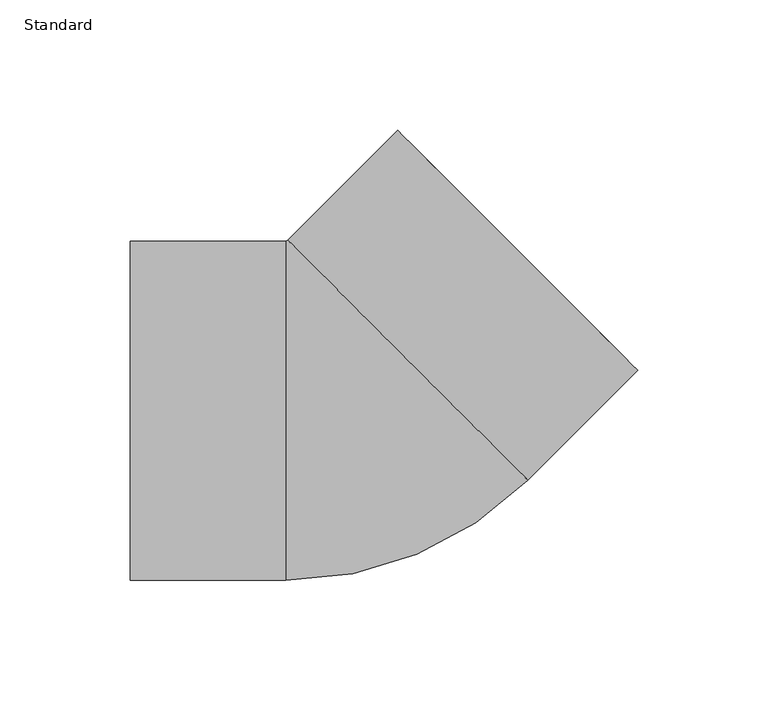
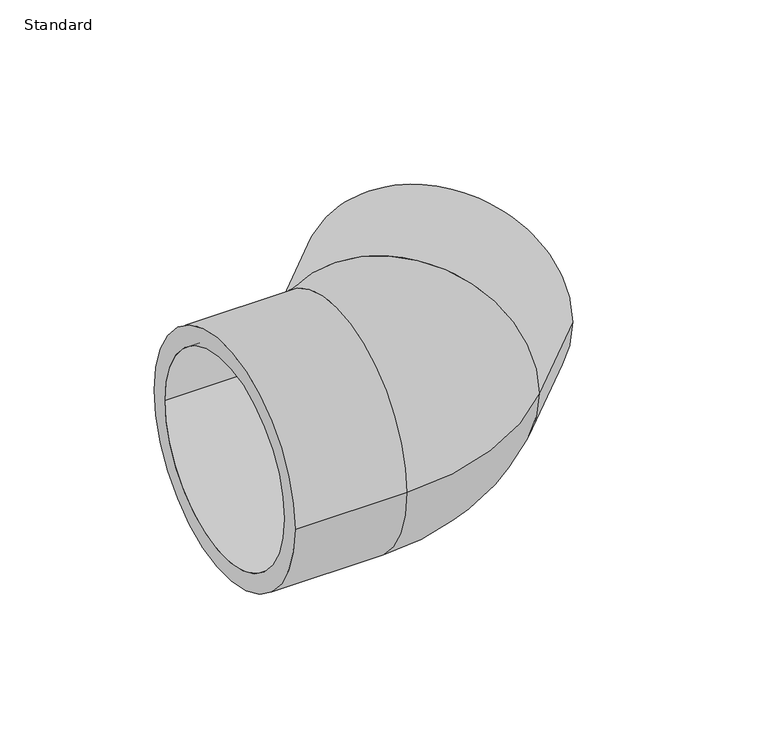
"""IFC4 building model written with IfcOpenShell, lengths in millimetres: pipe fitting geometry, Durapipe_PipeFitting_PVC_Elbow45deg : Standard."""

import ifcopenshell
import ifcopenshell.guid

model = None  # the IFC model being written
_history = None  # IfcOwnerHistory: only IFC2X3 demands one
_inside = {}  # id of a spatial element -> (the spatial element, [elements in it])
_under = {}  # id of a project, library or spatial element -> (it, [spatial elements below it])
_declared = {}  # id of a project -> (the project, [libraries it declares])
_typed = {}  # id of a type object -> (the type object, [elements of that type])
_made_of = {}  # id of a material, layer set ... -> (it, [elements and type objects made of it])


def new_model(schema):
    """Start an empty IFC model of exactly this schema.

    Asked for "IFC4X3", IfcOpenShell would pick the latest addendum, in which some entities
    have other attributes; the version numbers below select the first issue.
    IFC2X3 requires an IfcOwnerHistory on every rooted entity: one is made here for all.
    """
    global model, _history
    if schema == "IFC4X3":
        model = ifcopenshell.file(schema_version=(4, 3, 0, 0))
    else:
        model = ifcopenshell.file(schema=schema)
    _inside.clear()
    _under.clear()
    _declared.clear()
    _typed.clear()
    _made_of.clear()
    _history = None
    if model.schema == "IFC2X3":
        org = make("IfcOrganization", Name="unknown")
        user = make(
            "IfcPersonAndOrganization",
            ThePerson=make("IfcPerson", FamilyName="unknown"),
            TheOrganization=org,
        )
        app = make(
            "IfcApplication",
            ApplicationDeveloper=org,
            Version="unknown",
            ApplicationFullName="unknown",
            ApplicationIdentifier="unknown",
        )
        _history = make(
            "IfcOwnerHistory",
            OwningUser=user,
            OwningApplication=app,
            ChangeAction="ADDED",
            CreationDate=0,
        )
    return model


def make(cls, **values):
    """One entity of the class cls with the attributes given. An attribute that is None is left unset."""
    return model.create_entity(
        cls, **{name: value for name, value in values.items() if value is not None}
    )


def rooted(cls, **values):
    """An entity with a GlobalId (a new one), such as an element, a storey or a relation."""
    return make(cls, GlobalId=ifcopenshell.guid.new(), OwnerHistory=_history, **values)


def si_unit(unit_type, name, prefix=None):
    """IfcSIUnit, for example si_unit("LENGTHUNIT", "METRE", prefix="MILLI")."""
    return make("IfcSIUnit", UnitType=unit_type, Prefix=prefix, Name=name)


def assignment(units):
    """IfcUnitAssignment: the units of a project."""
    return None if units is None else make("IfcUnitAssignment", Units=units)


def point(xyz):
    """IfcCartesianPoint."""
    return None if xyz is None else make("IfcCartesianPoint", Coordinates=xyz)


def direction(xyz):
    """IfcDirection."""
    return None if xyz is None else make("IfcDirection", DirectionRatios=xyz)


def frame(location, z_axis=None, x_axis=None):
    """IfcAxis2Placement3D, a coordinate frame: its origin and axes. An axis left out is left unset."""
    return make(
        "IfcAxis2Placement3D",
        Location=point(location),
        Axis=direction(z_axis),
        RefDirection=direction(x_axis),
    )


def origin():
    """The frame at (0, 0, 0) with its axes left unset."""
    return frame((0.0, 0.0, 0.0))


def place(relative_to, where):
    """IfcLocalPlacement: puts the frame where relative to a parent placement (None: the world)."""
    return make(
        "IfcLocalPlacement", PlacementRelTo=relative_to, RelativePlacement=where
    )


def context(
    kind, dimensions, precision=None, world=None, true_north=None, identifier=None
):
    """IfcGeometricRepresentationContext, for example the 3D "Model" context."""
    return make(
        "IfcGeometricRepresentationContext",
        ContextIdentifier=identifier,
        ContextType=kind,
        CoordinateSpaceDimension=dimensions,
        Precision=precision,
        WorldCoordinateSystem=world,
        TrueNorth=true_north,
    )


def project(units=None, contexts=None):
    """IfcProject with its units and contexts."""
    return rooted(
        "IfcProject",
        Name="project",
        RepresentationContexts=contexts,
        UnitsInContext=assignment(units),
    )


def spatial(cls, under=None, at=None, **own):
    """A site, building, storey or space (cls), placed at a placement, below another one or the project."""
    s = rooted(cls, ObjectPlacement=at, **own)
    if under is not None:
        _under.setdefault(under.id(), (under, []))[1].append(s)
    return s


def polyline(points):
    """IfcPolyline through the points."""
    return make("IfcPolyline", Points=[point(p) for p in points])


def circle_curve(where, radius):
    """IfcCircle in the frame where."""
    return make("IfcCircle", Position=where, Radius=radius)


def ellipse_curve(where, semi_axis1, semi_axis2):
    """IfcEllipse in the frame where."""
    return make(
        "IfcEllipse", Position=where, SemiAxis1=semi_axis1, SemiAxis2=semi_axis2
    )


def trimmed(basis, trim1, trim2, sense, master):
    """IfcTrimmedCurve: the piece of a basis curve between two trims."""
    return make(
        "IfcTrimmedCurve",
        BasisCurve=basis,
        Trim1=trim1,
        Trim2=trim2,
        SenseAgreement=sense,
        MasterRepresentation=master,
    )


def shape(context_of_items, identifier, shape_type, items):
    """IfcShapeRepresentation: the items that make up one representation, for example the "Body"."""
    return make(
        "IfcShapeRepresentation",
        ContextOfItems=context_of_items,
        RepresentationIdentifier=identifier,
        RepresentationType=shape_type,
        Items=items,
    )


def source(mapping_origin, context_of_items, identifier, shape_type, items):
    """IfcRepresentationMap: a shape defined once, which mapped items show again and again."""
    return make(
        "IfcRepresentationMap",
        MappingOrigin=mapping_origin,
        MappedRepresentation=shape(context_of_items, identifier, shape_type, items),
    )


def transform(
    local_origin,
    x_axis=None,
    y_axis=None,
    z_axis=None,
    scale=None,
    scale2=None,
    scale3=None,
    uniform=True,
):
    """IfcCartesianTransformationOperator3D, or its non-uniform kind. x_axis, y_axis, z_axis: its Axis1, 2, 3."""
    if uniform:
        return make(
            "IfcCartesianTransformationOperator3D",
            Axis1=direction(x_axis),
            Axis2=direction(y_axis),
            LocalOrigin=point(local_origin),
            Scale=scale,
            Axis3=direction(z_axis),
        )
    return make(
        "IfcCartesianTransformationOperator3DnonUniform",
        Axis1=direction(x_axis),
        Axis2=direction(y_axis),
        LocalOrigin=point(local_origin),
        Scale=scale,
        Axis3=direction(z_axis),
        Scale2=scale2,
        Scale3=scale3,
    )


def mapped(mapping_source, mapping_target):
    """IfcMappedItem: shows the shape of a source again, moved by a transform."""
    return make(
        "IfcMappedItem", MappingSource=mapping_source, MappingTarget=mapping_target
    )


def made_of(thing, what):
    """Note that an element or type object is made of a material, layer set ...; save() writes the relation."""
    if what is not None:
        _made_of.setdefault(what.id(), (what, []))[1].append(thing)
    return thing


def element(
    cls,
    number,
    at=None,
    inside=None,
    cuts=None,
    type_object=None,
    material=None,
    context=None,
    identifier="Body",
    shape_type=None,
    held_by="IfcProductDefinitionShape",
    body=None,
    shapes=None,
    **own,
):
    """One element of the class cls, such as IfcWall. Its Tag is "e" and its number.

    at: its placement. inside: the storey or other place that contains it. cuts: it is an
    opening in that element (IfcRelVoidsElement). A single representation is given by context,
    identifier, shape_type and body (its items); several are given by shapes. held_by: the class
    of the entity that holds the representations. save() writes the other relations.
    """
    e = rooted(cls, Tag="e%d" % number, ObjectPlacement=at, **own)
    if body is not None:
        shapes = [shape(context, identifier, shape_type, body)]
    if shapes is not None:
        e.Representation = make(held_by, Representations=shapes)
    if inside is not None:
        _inside.setdefault(inside.id(), (inside, []))[1].append(e)
    if cuts is not None:
        rooted(
            "IfcRelVoidsElement", RelatingBuildingElement=cuts, RelatedOpeningElement=e
        )
    if type_object is not None:
        _typed.setdefault(type_object.id(), (type_object, []))[1].append(e)
    return made_of(e, material)


def aggregate(whole, parts):
    """IfcRelAggregates: a whole, such as a stair, and the parts it consists of."""
    return rooted("IfcRelAggregates", RelatingObject=whole, RelatedObjects=parts)


def save(model, path):
    """Write the relations noted so far, then the file.

    IfcRelAggregates (storeys below a building ...), IfcRelContainedInSpatialStructure (elements
    in a storey), IfcRelDefinesByType, IfcRelAssociatesMaterial and IfcRelDeclares: one each for
    every whole, place, type object, material and project.
    """
    for whole, parts in _under.values():
        aggregate(whole, parts)
    for where, things in _inside.values():
        rooted(
            "IfcRelContainedInSpatialStructure",
            RelatedElements=things,
            RelatingStructure=where,
        )
    for kind, things in _typed.values():
        rooted("IfcRelDefinesByType", RelatedObjects=things, RelatingType=kind)
    for what, things in _made_of.values():
        rooted("IfcRelAssociatesMaterial", RelatedObjects=things, RelatingMaterial=what)
    for by, libraries in _declared.values():
        rooted("IfcRelDeclares", RelatingContext=by, RelatedDefinitions=libraries)
    model.write(path)


def plane_surface(at):
    """IfcPlane: the flat surface through the origin of the frame at, square to its z axis."""
    return make("IfcPlane", Position=at)


def cylinder_surface(at, radius):
    """IfcCylindricalSurface: all points at the distance radius from the z axis of the frame at."""
    return make("IfcCylindricalSurface", Position=at, Radius=radius)


def revolved_surface(curve, axis_point, axis_direction):
    """IfcSurfaceOfRevolution: the curve turned about the line through axis_point along axis_direction."""
    return make(
        "IfcSurfaceOfRevolution",
        SweptCurve=make("IfcArbitraryOpenProfileDef", ProfileType="CURVE", Curve=curve),
        AxisPosition=make("IfcAxis1Placement", Location=point(axis_point), Axis=direction(axis_direction)),
    )


def advanced_brep(points, edges, surfaces, faces):
    """IfcAdvancedBrep: a solid bounded by faces that lie on surfaces and meet in shared edges.

    An edge is (start, end): straight between two places in points (the first is 0);
    or (start, end, curve); or (start, end, curve, False) where it runs against its curve.
    A face is (place in surfaces, loops), or (place, loops, False) where it looks against
    its surface's normal. A loop lists edges by number (the first is 1), with a minus sign
    where the edge is run from its end to its start. The first loop is the outer one.
    """
    corners = [point(p) for p in points]
    vertices = [make("IfcVertexPoint", VertexGeometry=c) for c in corners]
    made = []
    for start, end, *more in edges:
        made.append(
            make(
                "IfcEdgeCurve",
                EdgeStart=vertices[start],
                EdgeEnd=vertices[end],
                EdgeGeometry=more[0] if more else make("IfcPolyline", Points=[corners[start], corners[end]]),
                SameSense=more[1] if len(more) > 1 else True,
            )
        )
    hull = []
    for where, loops, *sense in faces:
        bounds = []
        for j, loop in enumerate(loops):
            ring = [make("IfcOrientedEdge", EdgeElement=made[abs(k) - 1], Orientation=k > 0) for k in loop]
            bounds.append(
                make(
                    "IfcFaceOuterBound" if j == 0 else "IfcFaceBound",
                    Bound=make("IfcEdgeLoop", EdgeList=ring),
                    Orientation=True,
                )
            )
        hull.append(make("IfcAdvancedFace", Bounds=bounds, FaceSurface=surfaces[where], SameSense=sense[0] if sense else True))
    return make("IfcAdvancedBrep", Outer=make("IfcClosedShell", CfsFaces=hull))


def standard_84c32fe4(model_context):
    return source(origin(), model_context, "Body", "AdvancedBrep", [
        advanced_brep(
        [(-87.0, -65.0, 0.0), (-87.0, 65.0, 0.0), (-87.0, -55.0, 0.0), (-87.0, 55.0, 0.0), (-27.4238816, -65.0, 0.0), (-27.4238816, 65.0, 0.0), (65.3535534, -26.5703282, 0.0), (-26.5703282, 65.3535534, 0.0), (107.4802307, 15.5563492, 0.0), (15.5563492, 107.4802307, 0.0), (22.627417, 100.4091629, 0.0), (100.4091629, 22.627417, 0.0), (-26.0, 55.0, 0.0), (-26.0, -55.0, 0.0), (-26.0, 0.0, 0.0), (-20.5060967, 57.2756493, 0.0), (18.3847763, 18.3847763, 0.0), (57.2756493, -20.5060967, 0.0)],
        [
            (0, 1, circle_curve(frame((-87.0, 0.0, 0.0), z_axis=(-1.0, 0.0, 0.0), x_axis=(0.0, 1.0, 0.0)), 65.0)),
            (1, 0, circle_curve(frame((-87.0, 0.0, 0.0), z_axis=(-1.0, 0.0, 0.0), x_axis=(0.0, 1.0, 0.0)), 65.0)),
            (2, 3, circle_curve(frame((-87.0, 0.0, 0.0), z_axis=(1.0, 0.0, 0.0), x_axis=(0.0, -1.0, 0.0)), 55.0)),
            (3, 2, circle_curve(frame((-87.0, 0.0, 0.0), z_axis=(1.0, 0.0, 0.0), x_axis=(0.0, -1.0, 0.0)), 55.0)),
            (0, 4),
            (4, 5, circle_curve(frame((-27.4238816, 0.0, 0.0), z_axis=(-1.0, 0.0, 0.0), x_axis=(0.0, 1.0, 0.0)), 65.0)),
            (5, 1),
            (5, 4, circle_curve(frame((-27.4238816, 0.0, 0.0), z_axis=(-1.0, 0.0, 0.0), x_axis=(0.0, 1.0, 0.0)), 65.0)),
            (4, 6, circle_curve(frame((-27.4238816, 66.2071068, 0.0), z_axis=(0.0, 0.0, 1.0), x_axis=(0.0, -1.0, 0.0)), 131.2071068)),
            (6, 7, circle_curve(frame((19.3916126, 19.3916126, 0.0), z_axis=(-0.7071067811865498, -0.7071067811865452, 0.0), x_axis=(-0.7071067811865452, 0.7071067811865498, 0.0)), 65.0)),
            (7, 5, circle_curve(frame((-27.4238816, 66.2071068, 0.0), z_axis=(0.0, 0.0, -1.0), x_axis=(0.0, -1.0, 0.0)), 1.2071068)),
            (7, 6, circle_curve(frame((19.3916126, 19.3916126, 0.0), z_axis=(-0.707106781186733, -0.707106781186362, 0.0), x_axis=(-0.707106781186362, 0.707106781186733, 0.0)), 65.0)),
            (8, 9, circle_curve(frame((61.51829, 61.51829, 0.0), z_axis=(0.7071067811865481, 0.707106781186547, 0.0), x_axis=(-0.707106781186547, 0.7071067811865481, 0.0)), 65.0)),
            (9, 8, circle_curve(frame((61.51829, 61.51829, 0.0), z_axis=(0.7071067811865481, 0.707106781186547, 0.0), x_axis=(-0.707106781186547, 0.7071067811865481, 0.0)), 65.0)),
            (10, 11, circle_curve(frame((61.51829, 61.51829, 0.0), z_axis=(-0.7071067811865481, -0.707106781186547, 0.0), x_axis=(0.707106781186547, -0.7071067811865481, 0.0)), 55.0)),
            (11, 10, circle_curve(frame((61.51829, 61.51829, 0.0), z_axis=(-0.7071067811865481, -0.707106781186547, 0.0), x_axis=(0.707106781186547, -0.7071067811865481, 0.0)), 55.0)),
            (6, 8),
            (9, 7),
            (12, 3),
            (2, 13),
            (13, 12, circle_curve(frame((-26.0, 0.0, 0.0), z_axis=(1.0, 0.0, 0.0), x_axis=(0.0, -1.0, 0.0)), 55.0)),
            (12, 13, circle_curve(frame((-26.0, 0.0, 0.0), z_axis=(1.0, 0.0, 0.0), x_axis=(0.0, -1.0, 0.0)), 55.0)),
            (13, 14),
            (14, 12),
            (15, 16),
            (16, 17),
            (17, 15, circle_curve(frame((18.3847763, 18.3847763, 0.0), z_axis=(0.7071067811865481, 0.707106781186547, 0.0), x_axis=(0.707106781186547, -0.7071067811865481, 0.0)), 55.0)),
            (15, 17, circle_curve(frame((18.3847763, 18.3847763, 0.0), z_axis=(0.7071067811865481, 0.707106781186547, 0.0), x_axis=(0.707106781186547, -0.7071067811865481, 0.0)), 55.0)),
            (17, 11),
            (10, 15),
        ],
        [
            plane_surface(frame((-87.0, 0.0, 0.0), z_axis=(-1.0, 0.0, 0.0), x_axis=(0.0, 0.0, 1.0))),
            cylinder_surface(frame((-87.0, 0.0, 0.0), z_axis=(-1.0, 0.0, 0.0), x_axis=(0.0, 1.0, 0.0)), 65.0),
            revolved_surface(trimmed(ellipse_curve(frame((-27.4238816, 0.0, 0.0), z_axis=(-1.0, 0.0, 0.0), x_axis=(0.0, 1.0, 0.0)), 65.0, 65.0), [point((-27.4238816, -65.0, 0.0))], [point((-27.4238816, 65.0, 0.0))], True, "CARTESIAN"), (-27.4238816, 66.2071068, 0.0), (0.0, 0.0, 1.0)),
            revolved_surface(trimmed(ellipse_curve(frame((-27.4238816, 0.0, 0.0), z_axis=(-1.0, 0.0, 0.0), x_axis=(0.0, 1.0, 0.0)), 65.0, 65.0), [point((-27.4238816, 65.0, 0.0))], [point((-27.4238816, -65.0, 0.0))], True, "CARTESIAN"), (-27.4238816, 66.2071068, 0.0), (0.0, 0.0, 1.0)),
            plane_surface(frame((61.51829, 61.51829, 0.0), z_axis=(0.7071067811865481, 0.707106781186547, 0.0), x_axis=(0.0, 0.0, 1.0))),
            cylinder_surface(frame((19.3916126, 19.3916126, 0.0), z_axis=(-0.7071067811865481, -0.707106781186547, 0.0), x_axis=(-0.707106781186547, 0.7071067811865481, 0.0)), 65.0),
            revolved_surface(polyline([(-26.0, -55.0, 0.0), (-87.0, -55.0, 0.0)]), (2000.0, 0.0, 0.0), (1.0, 0.0, 0.0)),
            plane_surface(frame((-26.0, 0.0, 0.0), z_axis=(-1.0, 0.0, 0.0), x_axis=(0.0, -1.0, 0.0))),
            plane_surface(frame((18.3847763, 18.3847763, 0.0), z_axis=(0.7071067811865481, 0.707106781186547, 0.0), x_axis=(0.707106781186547, -0.7071067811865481, 0.0))),
            revolved_surface(polyline([(100.40916296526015, 22.627417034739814, 0.0), (57.27564926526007, -20.50609666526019, 0.0)]), (0.0, 0.0, 0.0), (0.7071067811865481, 0.707106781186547, 0.0)),
        ],
        [
            (0, [[1, 2], [3, 4]]),
            (1, [[-1, 5, 6, 7]]),
            (1, [[-2, -7, 8, -5]]),
            (2, [[-6, 9, 10, 11]]),
            (3, [[-8, -11, 12, -9]]),
            (4, [[13, 14], [15, 16]]),
            (5, [[-10, 17, -14, 18]]),
            (5, [[-12, -18, -13, -17]]),
            (6, [[19, -3, 20, 21]]),
            (6, [[-19, 22, -20, -4]]),
            (7, [[-21, 23, 24]]),
            (7, [[-22, -24, -23]]),
            (8, [[25, 26, 27]]),
            (8, [[-25, 28, -26]]),
            (9, [[-27, 29, -15, 30]]),
            (9, [[-28, -30, -16, -29]]),
        ],
    ),
    ])


if __name__ == "__main__":
    model = new_model("IFC4")
    model_context = context("Model", 3, world=origin())
    ifc_project = project(units=[si_unit("LENGTHUNIT", "METRE", prefix="MILLI")], contexts=[model_context])
    site = spatial("IfcSite", under=ifc_project)
    building = spatial("IfcBuilding", under=site)
    placement = place(None, origin())
    standard_shape = standard_84c32fe4(model_context)
    element("IfcPipeFitting", 1, ObjectType="Durapipe_PipeFitting_PVC_Elbow45deg : Standard", at=placement, inside=building, context=model_context, shape_type="MappedRepresentation", body=[
        mapped(standard_shape, transform((0.0, 0.0, 0.0), x_axis=(1.0, 0.0, 0.0), y_axis=(0.0, 1.0, 0.0), z_axis=(0.0, 0.0, 1.0))),
    ])
    save(model, "model.ifc")
